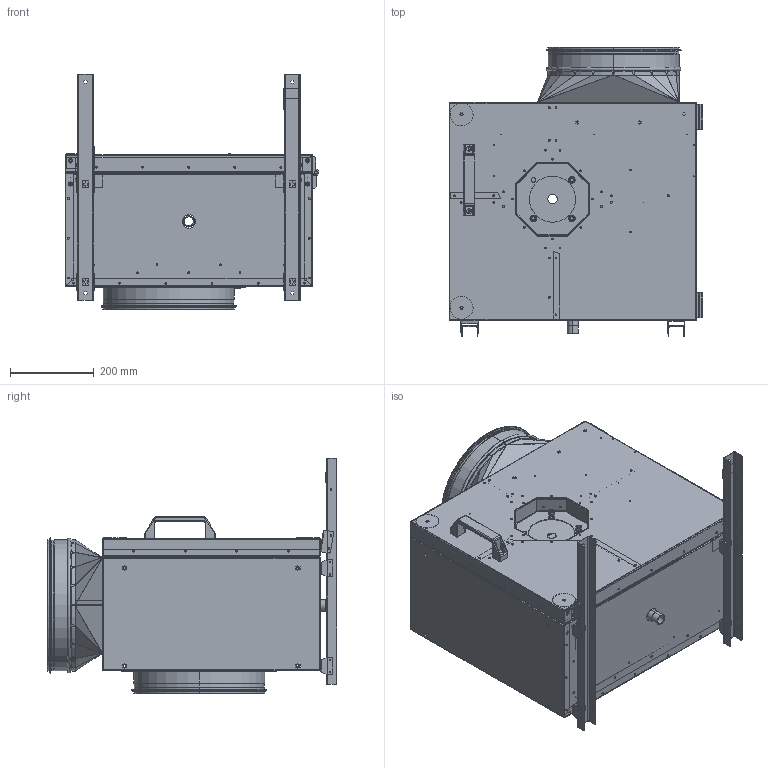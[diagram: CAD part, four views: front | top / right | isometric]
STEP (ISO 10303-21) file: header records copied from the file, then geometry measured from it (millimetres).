
FILE_DESCRIPTION (( 'STEP AP203' ), '1' );
FILE_NAME ('143073-00_MPS280EC30.STEP', '2018-03-05T08:21:03', ( '' ), ( '' ), 'SwSTEP 2.0', 'SolidWorks 2012', '' );
FILE_SCHEMA (( 'CONFIG_CONTROL_DESIGN' ));
Products named in the file (1): 143073-00_MPS280EC30
Bounding box: 607.03 x 691.64 x 562 mm (x, y, z)
Surface area: 5615437.2 mm2 (no closed solid volume)
Topology: 0 solids, 179 shells, 1645 faces, 8925 edges, 7259 vertices
Faces by surface type: cylinder 852, plane 638, bspline 57, torus 54, cone 44
Entity records: 97206 total; most frequent: CARTESIAN_POINT 26894, DIRECTION 14963, ORIENTED_EDGE 11836, EDGE_CURVE 8925, VERTEX_POINT 7259, AXIS2_PLACEMENT_3D 5047, VECTOR 4869, LINE 4869
